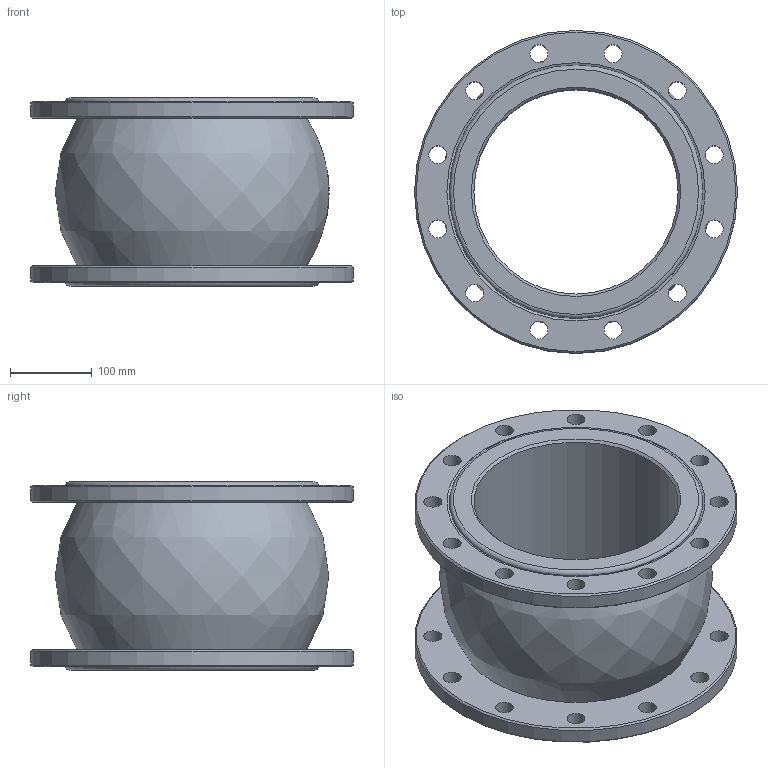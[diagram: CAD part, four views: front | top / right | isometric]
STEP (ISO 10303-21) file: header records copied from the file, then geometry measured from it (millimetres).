
FILE_DESCRIPTION(/* description */ ('D140-02398','CAx-IF Rec.Pracs.---Representation and Presentation of Product Manufacturing Information (PMI)---4.0---2014-10-13'),/* implementation_level */ '2;1');
FILE_NAME(/* name */ '',/* time_stamp */ '2026-03-10T22:42:31+03:00',/* author */ ('DN.RU'),/* organization */ ('DN.RU'),/* preprocessor_version */ 'ST-DEVELOPER v20',/* originating_system */ 'Autodesk Inventor 2025',/* authorisation */ '');
FILE_SCHEMA (('AP242_MANAGED_MODEL_BASED_3D_ENGINEERING_MIM_LF { 1 0 10303 442 1 1 4 }'));
Length unit declared in the file: millimetre
Products named in the file (1): CR-N25-F
Bounding box: 395 x 395 x 230 mm (x, y, z)
Volume: 8507020.3 mm3; surface area: 706374.4 mm2
Topology: 1 solids, 1 shells, 115 faces, 312 edges, 206 vertices
Faces by surface type: plane 43, bspline 34, cylinder 29, cone 7, torus 2
Full cylindrical faces by diameter (mm): 22 x24, 250 x1, 310 x2, 395 x2
Entity records: 4878 total; most frequent: CARTESIAN_POINT 1680, ORIENTED_EDGE 624, DIRECTION 608, EDGE_CURVE 312, AXIS2_PLACEMENT_3D 256, VERTEX_POINT 206, EDGE_LOOP 172, CIRCLE 161
